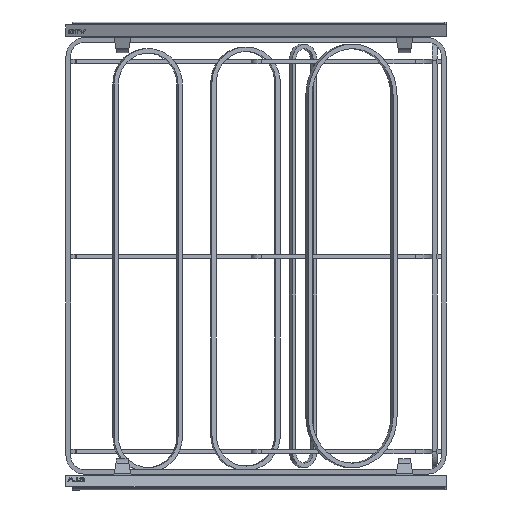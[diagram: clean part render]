
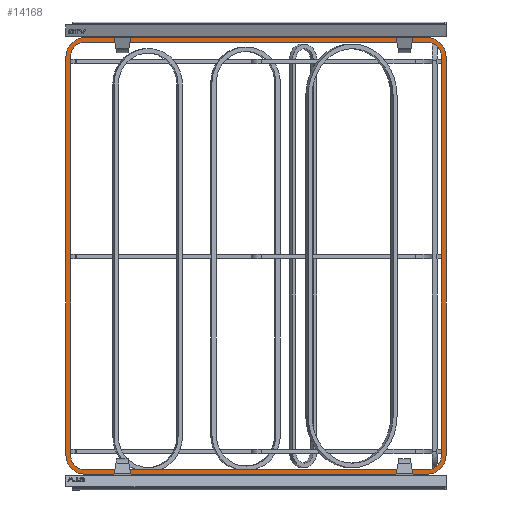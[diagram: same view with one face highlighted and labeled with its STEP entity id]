
A CAD part, front view. The second image highlights one B-rep face of the part: STEP entity #14168.
In plain terms, the highlighted planar face has unit normal (0.001, -1, 0) as drawn and (0, 1, 0) by its records, which use the part's own axes.
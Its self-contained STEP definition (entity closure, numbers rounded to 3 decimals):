
#541=FACE_BOUND('',#2347,.T.);
#884=CIRCLE('',#15562,17.25);
#887=CIRCLE('',#15566,22.75);
#888=CIRCLE('',#15570,17.25);
#891=CIRCLE('',#15574,22.75);
#892=CIRCLE('',#15578,17.25);
#895=CIRCLE('',#15582,22.75);
#896=CIRCLE('',#15586,17.25);
#899=CIRCLE('',#15591,22.75);
#1533=FACE_OUTER_BOUND('',#2346,.T.);
#2346=EDGE_LOOP('',(#11497,#11498,#11499,#11500,#11501,#11502,#11503,#11504));
#2347=EDGE_LOOP('',(#11505,#11506,#11507,#11508,#11509,#11510,#11511,#11512));
#3513=LINE('',#22190,#5048);
#3517=LINE('',#22197,#5052);
#3521=LINE('',#22214,#5056);
#3525=LINE('',#22221,#5060);
#3529=LINE('',#22238,#5064);
#3533=LINE('',#22245,#5068);
#3538=LINE('',#22262,#5073);
#3539=LINE('',#22263,#5074);
#5048=VECTOR('',#18217,10.);
#5052=VECTOR('',#18223,10.);
#5056=VECTOR('',#18241,10.);
#5060=VECTOR('',#18247,10.);
#5064=VECTOR('',#18265,10.);
#5068=VECTOR('',#18271,10.);
#5073=VECTOR('',#18292,10.);
#5074=VECTOR('',#18293,10.);
#6526=VERTEX_POINT('',#22170);
#6527=VERTEX_POINT('',#22172);
#6529=VERTEX_POINT('',#22178);
#6532=VERTEX_POINT('',#22183);
#6534=VERTEX_POINT('',#22188);
#6535=VERTEX_POINT('',#22193);
#6538=VERTEX_POINT('',#22200);
#6539=VERTEX_POINT('',#22205);
#6542=VERTEX_POINT('',#22212);
#6543=VERTEX_POINT('',#22217);
#6546=VERTEX_POINT('',#22224);
#6547=VERTEX_POINT('',#22229);
#6550=VERTEX_POINT('',#22236);
#6551=VERTEX_POINT('',#22241);
#6554=VERTEX_POINT('',#22248);
#6556=VERTEX_POINT('',#22258);
#8261=EDGE_CURVE('',#6526,#6527,#884,.T.);
#8267=EDGE_CURVE('',#6529,#6532,#887,.T.);
#8269=EDGE_CURVE('',#6534,#6526,#3513,.T.);
#8273=EDGE_CURVE('',#6535,#6529,#3517,.T.);
#8275=EDGE_CURVE('',#6538,#6534,#888,.T.);
#8279=EDGE_CURVE('',#6539,#6535,#891,.T.);
#8281=EDGE_CURVE('',#6542,#6538,#3521,.T.);
#8285=EDGE_CURVE('',#6543,#6539,#3525,.T.);
#8287=EDGE_CURVE('',#6546,#6542,#892,.T.);
#8291=EDGE_CURVE('',#6547,#6543,#895,.T.);
#8293=EDGE_CURVE('',#6550,#6546,#3529,.T.);
#8297=EDGE_CURVE('',#6551,#6547,#3533,.T.);
#8299=EDGE_CURVE('',#6554,#6550,#896,.T.);
#8305=EDGE_CURVE('',#6556,#6551,#899,.T.);
#8306=EDGE_CURVE('',#6532,#6556,#3538,.T.);
#8307=EDGE_CURVE('',#6527,#6554,#3539,.T.);
#11497=ORIENTED_EDGE('',*,*,#8305,.T.);
#11498=ORIENTED_EDGE('',*,*,#8297,.T.);
#11499=ORIENTED_EDGE('',*,*,#8291,.T.);
#11500=ORIENTED_EDGE('',*,*,#8285,.T.);
#11501=ORIENTED_EDGE('',*,*,#8279,.T.);
#11502=ORIENTED_EDGE('',*,*,#8273,.T.);
#11503=ORIENTED_EDGE('',*,*,#8267,.T.);
#11504=ORIENTED_EDGE('',*,*,#8306,.T.);
#11505=ORIENTED_EDGE('',*,*,#8307,.F.);
#11506=ORIENTED_EDGE('',*,*,#8261,.F.);
#11507=ORIENTED_EDGE('',*,*,#8269,.F.);
#11508=ORIENTED_EDGE('',*,*,#8275,.F.);
#11509=ORIENTED_EDGE('',*,*,#8281,.F.);
#11510=ORIENTED_EDGE('',*,*,#8287,.F.);
#11511=ORIENTED_EDGE('',*,*,#8293,.F.);
#11512=ORIENTED_EDGE('',*,*,#8299,.F.);
#13513=PLANE('',#15592);
#14168=ADVANCED_FACE('',(#1533,#541),#13513,.T.);
#15562=AXIS2_PLACEMENT_3D('',#22173,#18201,#18202);
#15566=AXIS2_PLACEMENT_3D('',#22185,#18212,#18213);
#15570=AXIS2_PLACEMENT_3D('',#22202,#18227,#18228);
#15574=AXIS2_PLACEMENT_3D('',#22209,#18236,#18237);
#15578=AXIS2_PLACEMENT_3D('',#22226,#18251,#18252);
#15582=AXIS2_PLACEMENT_3D('',#22233,#18260,#18261);
#15586=AXIS2_PLACEMENT_3D('',#22250,#18275,#18276);
#15591=AXIS2_PLACEMENT_3D('',#22260,#18288,#18289);
#15592=AXIS2_PLACEMENT_3D('',#22261,#18290,#18291);
#18201=DIRECTION('center_axis',(0.,1.,0.));
#18202=DIRECTION('ref_axis',(0.,0.,-1.));
#18212=DIRECTION('center_axis',(0.,1.,0.));
#18213=DIRECTION('ref_axis',(0.,0.,-1.));
#18217=DIRECTION('',(-1.,0.,0.));
#18223=DIRECTION('',(-1.,0.,0.));
#18227=DIRECTION('center_axis',(0.,1.,0.));
#18228=DIRECTION('ref_axis',(1.,0.,0.));
#18236=DIRECTION('center_axis',(0.,1.,0.));
#18237=DIRECTION('ref_axis',(1.,0.,0.));
#18241=DIRECTION('',(0.,0.,-1.));
#18247=DIRECTION('',(0.,0.,-1.));
#18251=DIRECTION('center_axis',(0.,1.,0.));
#18252=DIRECTION('ref_axis',(0.,0.,
1.));
#18260=DIRECTION('center_axis',(0.,1.,0.));
#18261=DIRECTION('ref_axis',(0.,0.,
1.));
#18265=DIRECTION('',(1.,0.,0.));
#18271=DIRECTION('',(1.,0.,0.));
#18275=DIRECTION('center_axis',(0.,1.,0.));
#18276=DIRECTION('ref_axis',(-1.,0.,0.));
#18288=DIRECTION('center_axis',(0.,1.,0.));
#18289=DIRECTION('ref_axis',(-1.,0.,0.));
#18290=DIRECTION('center_axis',(0.,1.,0.));
#18291=DIRECTION('ref_axis',(0.,0.,1.));
#18292=DIRECTION('',(0.,0.,1.));
#18293=DIRECTION('',(0.,0.,1.));
#22170=CARTESIAN_POINT('',(20.,2.75,-257.5));
#22172=CARTESIAN_POINT('',(2.75,2.75,-240.25));
#22173=CARTESIAN_POINT('Origin',(20.,2.75,-240.25));
#22178=CARTESIAN_POINT('',(20.,2.75,-263.));
#22183=CARTESIAN_POINT('',(-2.75,2.75,-240.25));
#22185=CARTESIAN_POINT('Origin',(20.,2.75,-240.25));
#22188=CARTESIAN_POINT('',(432.5,2.75,-257.5));
#22190=CARTESIAN_POINT('',(432.5,2.75,-257.5));
#22193=CARTESIAN_POINT('',(432.5,2.75,-263.));
#22197=CARTESIAN_POINT('',(432.5,2.75,-263.));
#22200=CARTESIAN_POINT('',(449.75,2.75,-240.25));
#22202=CARTESIAN_POINT('Origin',(432.5,2.75,-240.25));
#22205=CARTESIAN_POINT('',(455.25,2.75,-240.25));
#22209=CARTESIAN_POINT('Origin',(432.5,2.75,-240.25));
#22212=CARTESIAN_POINT('',(449.75,2.75,240.25));
#22214=CARTESIAN_POINT('',(449.75,2.75,240.25));
#22217=CARTESIAN_POINT('',(455.25,2.75,240.25));
#22221=CARTESIAN_POINT('',(455.25,2.75,240.25));
#22224=CARTESIAN_POINT('',(432.5,2.75,257.5));
#22226=CARTESIAN_POINT('Origin',(432.5,2.75,240.25));
#22229=CARTESIAN_POINT('',(432.5,2.75,263.));
#22233=CARTESIAN_POINT('Origin',(432.5,2.75,240.25));
#22236=CARTESIAN_POINT('',(20.,2.75,257.5));
#22238=CARTESIAN_POINT('',(20.,2.75,257.5));
#22241=CARTESIAN_POINT('',(20.,2.75,263.));
#22245=CARTESIAN_POINT('',(20.,2.75,263.));
#22248=CARTESIAN_POINT('',(2.75,2.75,240.25));
#22250=CARTESIAN_POINT('Origin',(20.,2.75,240.25));
#22258=CARTESIAN_POINT('',(-2.75,2.75,240.25));
#22260=CARTESIAN_POINT('Origin',(20.,2.75,240.25));
#22261=CARTESIAN_POINT('Origin',(2.75,2.75,240.25));
#22262=CARTESIAN_POINT('',(-2.75,2.75,-240.25));
#22263=CARTESIAN_POINT('',(2.75,2.75,-240.25));
